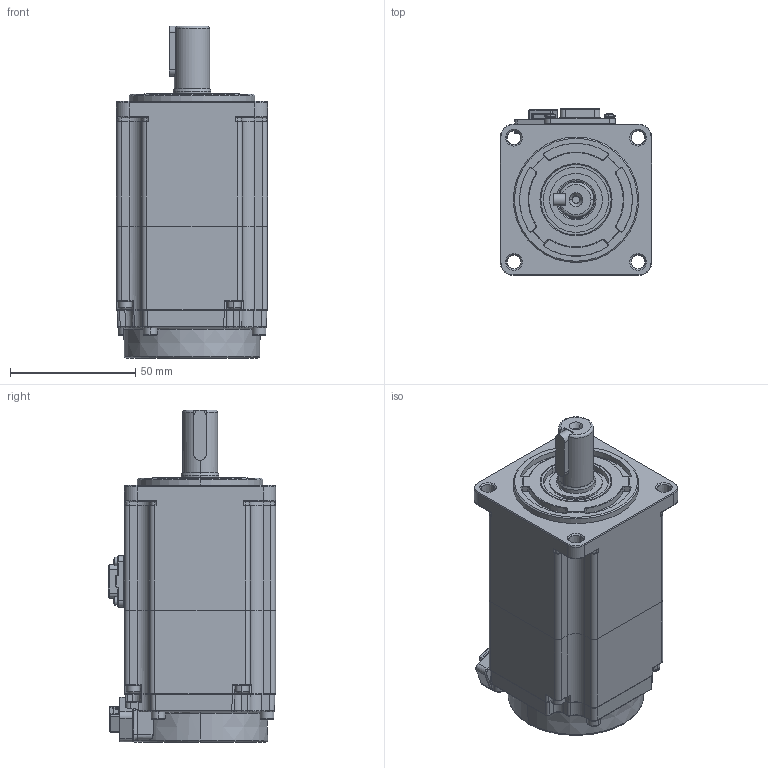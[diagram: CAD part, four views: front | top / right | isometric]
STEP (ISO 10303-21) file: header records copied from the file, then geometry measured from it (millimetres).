
FILE_DESCRIPTION (( 'STEP AP203' ), '1' );
FILE_NAME ('G3系列60ST-200W电机刹车三维图-三竹插拔头.STEP', '2023-09-27T05:24:50', ( '微软用户' ), ( '微软中国' ), 'SwSTEP 2.0', 'SolidWorks 2016', '' );
FILE_SCHEMA (( 'CONFIG_CONTROL_DESIGN' ));
Products named in the file (1): G3系列60ST-200W电机刹车三维图-三竹插拔头
Bounding box: 60.2 x 66.6 x 132.3 mm (x, y, z)
Surface area: 81282.1 mm2 (no closed solid volume)
Topology: 0 solids, 20 shells, 3532 faces, 9111 edges, 5796 vertices
Faces by surface type: plane 1988, cylinder 696, bspline 375, cone 350, torus 115, sphere 8
Entity records: 117442 total; most frequent: CARTESIAN_POINT 33348, ORIENTED_EDGE 18144, DIRECTION 16476, EDGE_CURVE 9086, VERTEX_POINT 5796, LINE 5744, VECTOR 5744, AXIS2_PLACEMENT_3D 5366
